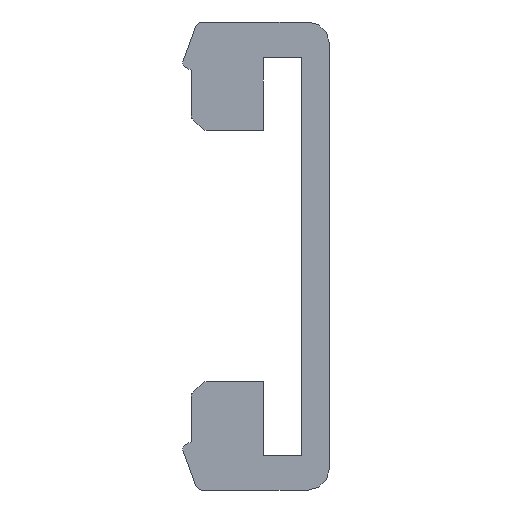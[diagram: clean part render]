
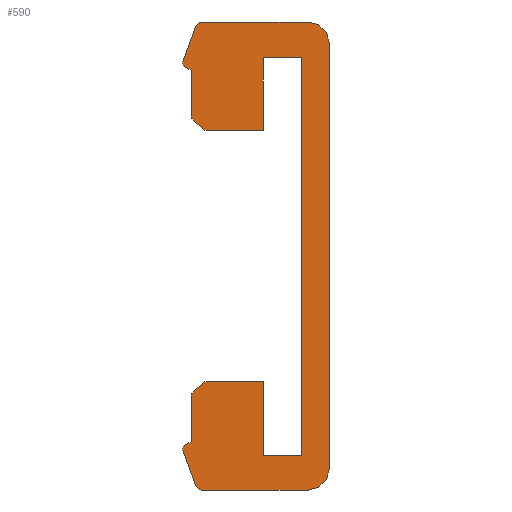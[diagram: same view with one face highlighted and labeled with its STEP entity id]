
A CAD part, left-side view. The second image highlights one B-rep face of the part: STEP entity #590.
In plain terms, the highlighted planar face has unit normal (-1, 0, 0).
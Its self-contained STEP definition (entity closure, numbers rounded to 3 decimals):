
#34=PLANE('',#642);
#64=FACE_OUTER_BOUND('',#94,.T.);
#94=EDGE_LOOP('',(#523,#524,#525,#526,#527,#528,#529,#530,#531,#532,#533,
#534,#535,#536,#537,#538,#539,#540,#541,#542,#543,#544,#545,#546,#547,#548,
#549,#550));
#97=LINE('',#821,#161);
#101=LINE('',#833,#165);
#104=LINE('',#839,#168);
#108=LINE('',#851,#172);
#112=LINE('',#863,#176);
#116=LINE('',#875,#180);
#120=LINE('',#887,#184);
#124=LINE('',#899,#188);
#128=LINE('',#911,#192);
#131=LINE('',#917,#195);
#135=LINE('',#929,#199);
#139=LINE('',#941,#203);
#142=LINE('',#947,#206);
#145=LINE('',#953,#209);
#148=LINE('',#959,#212);
#151=LINE('',#965,#215);
#154=LINE('',#971,#218);
#157=LINE('',#976,#221);
#161=VECTOR('',#655,0.664);
#165=VECTOR('',#667,2.142);
#168=VECTOR('',#672,0.346);
#172=VECTOR('',#684,1.77);
#176=VECTOR('',#696,5.001);
#180=VECTOR('',#708,20.);
#184=VECTOR('',#720,5.001);
#188=VECTOR('',#732,1.77);
#192=VECTOR('',#744,0.346);
#195=VECTOR('',#749,2.142);
#199=VECTOR('',#761,0.664);
#203=VECTOR('',#773,2.697);
#206=VECTOR('',#778,3.395);
#209=VECTOR('',#783,1.803);
#212=VECTOR('',#788,18.711);
#215=VECTOR('',#793,1.803);
#218=VECTOR('',#798,3.484);
#221=VECTOR('',#803,2.697);
#223=CIRCLE('',#594,0.2);
#225=CIRCLE('',#598,0.2);
#227=CIRCLE('',#603,0.2);
#229=CIRCLE('',#607,0.3);
#231=CIRCLE('',#611,1.);
#233=CIRCLE('',#615,1.);
#235=CIRCLE('',#619,0.3);
#237=CIRCLE('',#623,0.2);
#239=CIRCLE('',#628,0.2);
#241=CIRCLE('',#632,0.2);
#243=VERTEX_POINT('',#811);
#244=VERTEX_POINT('',#812);
#247=VERTEX_POINT('',#820);
#249=VERTEX_POINT('',#826);
#251=VERTEX_POINT('',#832);
#253=VERTEX_POINT('',#838);
#255=VERTEX_POINT('',#844);
#257=VERTEX_POINT('',#850);
#259=VERTEX_POINT('',#856);
#261=VERTEX_POINT('',#862);
#263=VERTEX_POINT('',#868);
#265=VERTEX_POINT('',#874);
#267=VERTEX_POINT('',#880);
#269=VERTEX_POINT('',#886);
#271=VERTEX_POINT('',#892);
#273=VERTEX_POINT('',#898);
#275=VERTEX_POINT('',#904);
#277=VERTEX_POINT('',#910);
#279=VERTEX_POINT('',#916);
#281=VERTEX_POINT('',#922);
#283=VERTEX_POINT('',#928);
#285=VERTEX_POINT('',#934);
#287=VERTEX_POINT('',#940);
#289=VERTEX_POINT('',#946);
#291=VERTEX_POINT('',#952);
#293=VERTEX_POINT('',#958);
#295=VERTEX_POINT('',#964);
#297=VERTEX_POINT('',#970);
#299=EDGE_CURVE('',#243,#244,#223,.T.);
#303=EDGE_CURVE('',#244,#247,#97,.T.);
#306=EDGE_CURVE('',#247,#249,#225,.T.);
#309=EDGE_CURVE('',#249,#251,#101,.T.);
#312=EDGE_CURVE('',#251,#253,#104,.T.);
#315=EDGE_CURVE('',#253,#255,#227,.T.);
#318=EDGE_CURVE('',#255,#257,#108,.T.);
#321=EDGE_CURVE('',#257,#259,#229,.T.);
#324=EDGE_CURVE('',#259,#261,#112,.T.);
#327=EDGE_CURVE('',#261,#263,#231,.T.);
#330=EDGE_CURVE('',#263,#265,#116,.T.);
#333=EDGE_CURVE('',#265,#267,#233,.T.);
#336=EDGE_CURVE('',#267,#269,#120,.T.);
#339=EDGE_CURVE('',#269,#271,#235,.T.);
#342=EDGE_CURVE('',#271,#273,#124,.T.);
#345=EDGE_CURVE('',#273,#275,#237,.T.);
#348=EDGE_CURVE('',#275,#277,#128,.T.);
#351=EDGE_CURVE('',#277,#279,#131,.T.);
#354=EDGE_CURVE('',#279,#281,#239,.T.);
#357=EDGE_CURVE('',#281,#283,#135,.T.);
#360=EDGE_CURVE('',#283,#285,#241,.T.);
#363=EDGE_CURVE('',#287,#285,#139,.T.);
#366=EDGE_CURVE('',#289,#287,#142,.T.);
#369=EDGE_CURVE('',#291,#289,#145,.T.);
#372=EDGE_CURVE('',#293,#291,#148,.T.);
#375=EDGE_CURVE('',#295,#293,#151,.T.);
#378=EDGE_CURVE('',#297,#295,#154,.T.);
#381=EDGE_CURVE('',#243,#297,#157,.T.);
#523=ORIENTED_EDGE('',*,*,#381,.F.);
#524=ORIENTED_EDGE('',*,*,#299,.T.);
#525=ORIENTED_EDGE('',*,*,#303,.T.);
#526=ORIENTED_EDGE('',*,*,#306,.T.);
#527=ORIENTED_EDGE('',*,*,#309,.T.);
#528=ORIENTED_EDGE('',*,*,#312,.T.);
#529=ORIENTED_EDGE('',*,*,#315,.T.);
#530=ORIENTED_EDGE('',*,*,#318,.T.);
#531=ORIENTED_EDGE('',*,*,#321,.T.);
#532=ORIENTED_EDGE('',*,*,#324,.T.);
#533=ORIENTED_EDGE('',*,*,#327,.T.);
#534=ORIENTED_EDGE('',*,*,#330,.T.);
#535=ORIENTED_EDGE('',*,*,#333,.T.);
#536=ORIENTED_EDGE('',*,*,#336,.T.);
#537=ORIENTED_EDGE('',*,*,#339,.T.);
#538=ORIENTED_EDGE('',*,*,#342,.T.);
#539=ORIENTED_EDGE('',*,*,#345,.T.);
#540=ORIENTED_EDGE('',*,*,#348,.T.);
#541=ORIENTED_EDGE('',*,*,#351,.T.);
#542=ORIENTED_EDGE('',*,*,#354,.T.);
#543=ORIENTED_EDGE('',*,*,#357,.T.);
#544=ORIENTED_EDGE('',*,*,#360,.T.);
#545=ORIENTED_EDGE('',*,*,#363,.F.);
#546=ORIENTED_EDGE('',*,*,#366,.F.);
#547=ORIENTED_EDGE('',*,*,#369,.F.);
#548=ORIENTED_EDGE('',*,*,#372,.F.);
#549=ORIENTED_EDGE('',*,*,#375,.F.);
#550=ORIENTED_EDGE('',*,*,#378,.F.);
#590=ADVANCED_FACE('',(#64),#34,.F.);
#594=AXIS2_PLACEMENT_3D('',#813,#647,#648);
#598=AXIS2_PLACEMENT_3D('',#827,#660,#661);
#603=AXIS2_PLACEMENT_3D('',#845,#677,#678);
#607=AXIS2_PLACEMENT_3D('',#857,#689,#690);
#611=AXIS2_PLACEMENT_3D('',#869,#701,#702);
#615=AXIS2_PLACEMENT_3D('',#881,#713,#714);
#619=AXIS2_PLACEMENT_3D('',#893,#725,#726);
#623=AXIS2_PLACEMENT_3D('',#905,#737,#738);
#628=AXIS2_PLACEMENT_3D('',#923,#754,#755);
#632=AXIS2_PLACEMENT_3D('',#935,#766,#767);
#642=AXIS2_PLACEMENT_3D('',#979,#807,#808);
#647=DIRECTION('center_axis',(-1.,0.,0.));
#648=DIRECTION('ref_axis',(0.,-0.707,-0.707));
#655=DIRECTION('',(0.,0.707,-0.707));
#660=DIRECTION('center_axis',(-1.,0.,0.));
#661=DIRECTION('ref_axis',(0.,-1.,0.));
#667=DIRECTION('',(0.,0.,-1.));
#672=DIRECTION('',(0.,0.866,-0.5));
#677=DIRECTION('center_axis',(-1.,0.,0.));
#678=DIRECTION('ref_axis',(0.,-0.94,0.342));
#684=DIRECTION('',(0.,-0.342,-0.94));
#689=DIRECTION('center_axis',(-1.,0.,0.));
#690=DIRECTION('ref_axis',(0.,0.,1.));
#696=DIRECTION('',(0.,-1.,0.));
#701=DIRECTION('center_axis',(-1.,0.,0.));
#702=DIRECTION('ref_axis',(0.,1.,0.));
#708=DIRECTION('',(0.,0.,1.));
#713=DIRECTION('center_axis',(-1.,0.,0.));
#714=DIRECTION('ref_axis',(0.,0.,-1.));
#720=DIRECTION('',(0.,1.,0.));
#725=DIRECTION('center_axis',(-1.,0.,0.));
#726=DIRECTION('ref_axis',(0.,-0.94,-0.342));
#732=DIRECTION('',(0.,0.342,-0.94));
#737=DIRECTION('center_axis',(-1.,0.,0.));
#738=DIRECTION('ref_axis',(0.,-0.5,0.866));
#744=DIRECTION('',(0.,-0.866,-0.5));
#749=DIRECTION('',(0.,0.,-1.));
#754=DIRECTION('center_axis',(-1.,0.,0.));
#755=DIRECTION('ref_axis',(0.,-0.707,0.707));
#761=DIRECTION('',(0.,-0.707,-0.707));
#766=DIRECTION('center_axis',(-1.,0.,0.));
#767=DIRECTION('ref_axis',(0.,0.156,0.988));
#773=DIRECTION('',(0.,1.,0.));
#778=DIRECTION('',(0.,0.,-1.));
#783=DIRECTION('',(0.,1.,0.));
#788=DIRECTION('',(0.,0.,1.));
#793=DIRECTION('',(0.,-1.,0.));
#798=DIRECTION('',(0.,0.,-1.));
#803=DIRECTION('',(0.,-1.,0.));
#807=DIRECTION('center_axis',(1.,0.,0.));
#808=DIRECTION('ref_axis',(0.,0.,-1.));
#811=CARTESIAN_POINT('',(0.,5.799,-5.916));
#812=CARTESIAN_POINT('',(0.,5.972,-5.972));
#813=CARTESIAN_POINT('Origin',(0.,5.831,-6.113));
#820=CARTESIAN_POINT('',(0.,6.441,-6.441));
#821=CARTESIAN_POINT('',(0.,5.972,-5.972));
#826=CARTESIAN_POINT('',(0.,6.5,-6.583));
#827=CARTESIAN_POINT('Origin',(0.,6.3,-6.583));
#832=CARTESIAN_POINT('',(0.,6.5,-8.725));
#833=CARTESIAN_POINT('',(0.,6.5,-6.583));
#838=CARTESIAN_POINT('',(0.,6.8,-8.898));
#839=CARTESIAN_POINT('',(0.,6.5,-8.725));
#844=CARTESIAN_POINT('',(0.,6.888,-9.14));
#845=CARTESIAN_POINT('Origin',(0.,6.7,-9.071));
#850=CARTESIAN_POINT('',(0.,6.283,-10.803));
#851=CARTESIAN_POINT('',(0.,6.888,-9.14));
#856=CARTESIAN_POINT('',(0.,6.001,-11.));
#857=CARTESIAN_POINT('Origin',(0.,6.001,-10.7));
#862=CARTESIAN_POINT('',(0.,1.,-11.));
#863=CARTESIAN_POINT('',(0.,6.001,-11.));
#868=CARTESIAN_POINT('',(0.,0.,-10.));
#869=CARTESIAN_POINT('Origin',(0.,1.,-10.));
#874=CARTESIAN_POINT('',(0.,0.,10.));
#875=CARTESIAN_POINT('',(0.,0.,-10.));
#880=CARTESIAN_POINT('',(0.,1.,11.));
#881=CARTESIAN_POINT('Origin',(0.,1.,10.));
#886=CARTESIAN_POINT('',(0.,6.001,11.));
#887=CARTESIAN_POINT('',(0.,1.,11.));
#892=CARTESIAN_POINT('',(0.,6.283,10.803));
#893=CARTESIAN_POINT('Origin',(0.,6.001,10.7));
#898=CARTESIAN_POINT('',(0.,6.888,9.14));
#899=CARTESIAN_POINT('',(0.,6.283,10.803));
#904=CARTESIAN_POINT('',(0.,6.8,8.898));
#905=CARTESIAN_POINT('Origin',(0.,6.7,9.071));
#910=CARTESIAN_POINT('',(0.,6.5,8.725));
#911=CARTESIAN_POINT('',(0.,6.8,8.898));
#916=CARTESIAN_POINT('',(0.,6.5,6.583));
#917=CARTESIAN_POINT('',(0.,6.5,8.725));
#922=CARTESIAN_POINT('',(0.,6.441,6.441));
#923=CARTESIAN_POINT('Origin',(0.,6.3,6.583));
#928=CARTESIAN_POINT('',(0.,5.972,5.972));
#929=CARTESIAN_POINT('',(0.,6.441,6.441));
#934=CARTESIAN_POINT('',(0.,5.799,5.916));
#935=CARTESIAN_POINT('Origin',(0.,5.831,6.113));
#940=CARTESIAN_POINT('',(0.,3.103,5.916));
#941=CARTESIAN_POINT('',(0.,3.103,5.916));
#946=CARTESIAN_POINT('',(0.,3.103,9.311));
#947=CARTESIAN_POINT('',(0.,3.103,9.311));
#952=CARTESIAN_POINT('',(0.,1.3,9.311));
#953=CARTESIAN_POINT('',(0.,1.3,9.311));
#958=CARTESIAN_POINT('',(0.,1.3,-9.4));
#959=CARTESIAN_POINT('',(0.,1.3,-9.4));
#964=CARTESIAN_POINT('',(0.,3.103,-9.4));
#965=CARTESIAN_POINT('',(0.,3.103,-9.4));
#970=CARTESIAN_POINT('',(0.,3.103,-5.916));
#971=CARTESIAN_POINT('',(0.,3.103,-5.916));
#976=CARTESIAN_POINT('',(0.,5.799,-5.916));
#979=CARTESIAN_POINT('Origin',(0.,2.535,-0.023));
